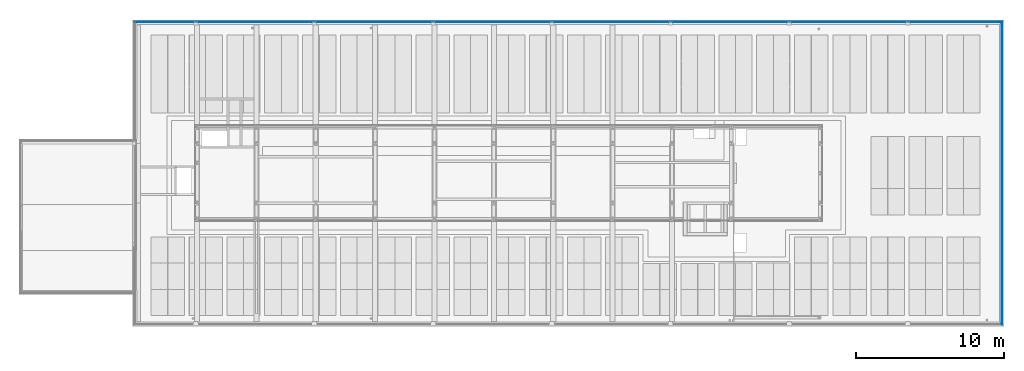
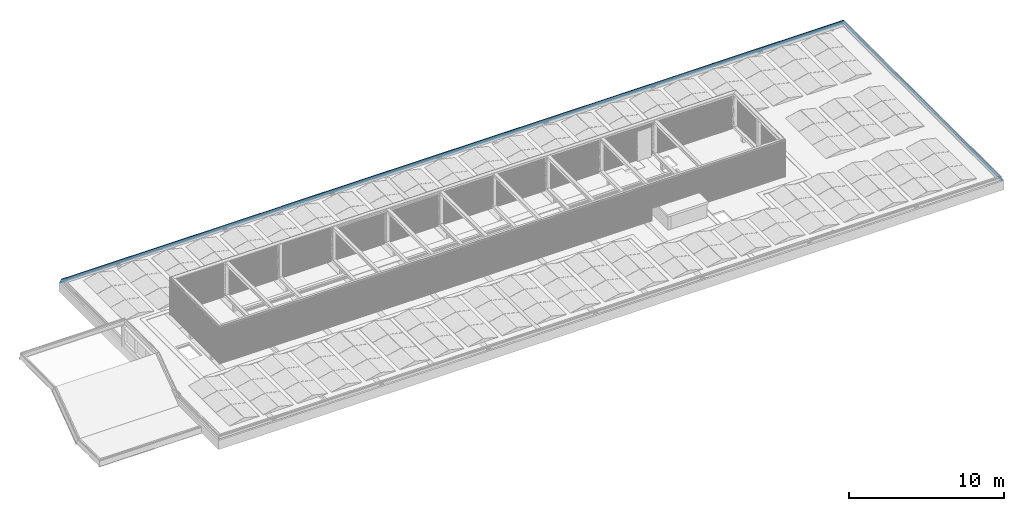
# One storey, part 43 of 63: 5 building element parts, 2 elements without a shape of their own.
"""IFC2X3 building model written with IfcOpenShell, lengths in millimetres."""

from ifc_helpers import new_model, entity, si_unit, converted_unit, derived_unit, money_unit, direction, frame, origin_with_axes, place, context, subcontext, project, spatial, faceted_brep, material, type_object, element, aggregate, save


model = new_model("IFC2X3")

# Units and contexts
model_context = context("Model", 3, precision=0.01, world=origin_with_axes(), true_north=direction((0.0, 1.0)))
body_context = subcontext(model_context, "Body", "Model", "MODEL_VIEW")
ifc_project = project(units=[si_unit("LENGTHUNIT", "METRE", prefix="MILLI"), si_unit("AREAUNIT", "SQUARE_METRE"), si_unit("VOLUMEUNIT", "CUBIC_METRE"), converted_unit("PLANEANGLEUNIT", "DEGREE", entity("IfcPlaneAngleMeasure", 0.0174532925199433), si_unit("PLANEANGLEUNIT", "RADIAN"), dimensions=[0, 0, 0, 0, 0, 0, 0]), money_unit("EUR"), converted_unit("TIMEUNIT", "Year", entity("IfcTimeMeasure", 31557600.0), si_unit("TIMEUNIT", "SECOND"), dimensions=[0, 0, 1, 0, 0, 0, 0]), si_unit("MASSUNIT", "GRAM", prefix="KILO"), si_unit("THERMODYNAMICTEMPERATUREUNIT", "DEGREE_CELSIUS"), si_unit("LUMINOUSINTENSITYUNIT", "LUMEN"), si_unit("ENERGYUNIT", "JOULE", prefix="MEGA"), derived_unit("THERMALCONDUCTANCEUNIT", [(si_unit("POWERUNIT", "WATT"), 1), (si_unit("LENGTHUNIT", "METRE"), -1), (si_unit("THERMODYNAMICTEMPERATUREUNIT", "KELVIN"), -1)]), derived_unit("SPECIFICHEATCAPACITYUNIT", [(si_unit("ENERGYUNIT", "JOULE"), 1), (si_unit("MASSUNIT", "GRAM", prefix="KILO"), -1), (si_unit("THERMODYNAMICTEMPERATUREUNIT", "KELVIN"), -1)]), derived_unit("MASSDENSITYUNIT", [(si_unit("MASSUNIT", "GRAM", prefix="KILO"), 1), (si_unit("VOLUMEUNIT", "CUBIC_METRE"), -1)])], contexts=[model_context])

# Site, building, storey
site_placement = place(None, origin_with_axes())
site = spatial("IfcSite", under=ifc_project, at=site_placement, Name="<site naam>", CompositionType="ELEMENT")
building_placement = place(site_placement, origin_with_axes())
building = spatial("IfcBuilding", under=site, at=building_placement, Name="<Naam gebouw>", CompositionType="ELEMENT")
storey_placement = place(building_placement, frame((0.0, 0.0, 12770.0), z_axis=(0.0, 0.0, 1.0), x_axis=(1.0, 0.0, 0.0)))
storey = spatial("IfcBuildingStorey", under=building, at=storey_placement, Name="04 4e verdieping", CompositionType="ELEMENT", Elevation=12770.0)

# Beam, building element parts
beam_type = type_object("IfcBeamType", Name="Aluminium daktrim 45 x 250", PredefinedType="BEAM")
beam_1_placement = place(storey_placement, frame((70369.99999757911, -324.9999975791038, -14.59999999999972), z_axis=(0.0, 0.0, 1.0), x_axis=(1.0, 0.0, 0.0)))
beam_1 = element("IfcBeam", 1, at=beam_1_placement, inside=storey, type_object=beam_type, Name="47_Balk_Aluminium", ObjectType="BEAM")
ifc_material = material(Name="aluminium")
building_element_part_1_placement = place(beam_1_placement, origin_with_axes())
building_element_part_1 = element("IfcBuildingElementPart", 2, at=building_element_part_1_placement, material=ifc_material, Name="aluminium", context=body_context, shape_type="Brep", body=[
    faceted_brep([(-143.0058874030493, 20506.99410775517, 241.8720983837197), (-111.197910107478, 20538.80208505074, 237.7678423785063), (-111.197910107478, 111.1979101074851, 237.7678423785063), (-143.0058874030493, 143.0058874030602, 241.8720983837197), (-143.0058874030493, 20506.99410775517, 253.0654661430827), (-141.8058874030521, 20508.19410775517, 253.0654661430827), (-141.8058874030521, 20508.19410775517, 243.1686919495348), (-110.0058874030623, 20539.99410775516, 239.0654661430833), (-110.0058874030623, 20539.99410775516, 44.56563661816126), (-115.2058874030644, 20534.79410775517, 44.56563661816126), (-115.2058874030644, 20534.79410775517, 61.56563661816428), (-114.005887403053, 20535.99410775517, 61.56563661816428), (-114.005887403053, 20535.99410775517, 45.7656366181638), (-111.197910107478, 20538.80208505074, 45.7656366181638), (-111.197910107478, 111.197910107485, 45.7656366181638), (-114.005887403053, 114.0058874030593, 45.7656366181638), (-114.005887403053, 114.0058874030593, 61.56563661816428), (-115.2058874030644, 115.2058874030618, 61.56563661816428), (-115.2058874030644, 115.2058874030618, 44.56563661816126), (-110.0058874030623, 110.0058874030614, 44.56563661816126), (-110.0058874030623, 110.0058874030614, 239.0654661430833), (-141.8058874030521, 141.8058874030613, 243.1686919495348), (-141.8058874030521, 141.8058874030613, 253.0654661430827), (-143.0058874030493, 143.0058874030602, 253.0654661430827)], [[[0, 1, 2, 3]], [[0, 4, 5, 6, 7, 8, 9, 10, 11, 12, 13, 1]], [[1, 13, 14, 2]], [[3, 2, 14, 15, 16, 17, 18, 19, 20, 21, 22, 23]], [[4, 0, 3, 23]], [[5, 4, 23, 22]], [[6, 5, 22, 21]], [[7, 6, 21, 20]], [[8, 7, 20, 19]], [[9, 8, 19, 18]], [[10, 9, 18, 17]], [[11, 10, 17, 16]], [[12, 11, 16, 15]], [[13, 12, 15, 14]]]),
])
building_element_part_2_placement = place(beam_1_placement, origin_with_axes())
building_element_part_2 = element("IfcBuildingElementPart", 3, at=building_element_part_2_placement, material=ifc_material, Name="aluminium", context=body_context, shape_type="Brep", body=[
    faceted_brep([(-112.0058939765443, 20537.99410118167, 49.56563034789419), (-112.0058939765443, 20537.99410118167, 69.56564503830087), (-112.0058939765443, 112.0058939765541, 69.56564503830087), (-112.0058939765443, 112.0058939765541, 49.56563034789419), (-113.2058874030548, 20536.79410775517, 49.56563034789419), (-113.2058874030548, 20536.79410775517, 68.55872432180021), (-145.0058874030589, 20504.99410775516, 74.16592230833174), (-145.0058874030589, 20504.99410775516, 89.56564503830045), (-143.8058874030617, 20506.19410775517, 89.56564503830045), (-143.8058874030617, 20506.19410775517, 75.17284186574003), (-143.8058874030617, 143.8058874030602, 75.17284186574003), (-143.8058874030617, 143.8058874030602, 89.56564503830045), (-145.0058874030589, 145.0058874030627, 89.56564503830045), (-145.0058874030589, 145.0058874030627, 74.16592230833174), (-113.2058874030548, 113.2058874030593, 68.55872432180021), (-113.2058874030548, 113.2058874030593, 49.56563034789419)], [[[0, 1, 2, 3]], [[0, 4, 5, 6, 7, 8, 9, 1]], [[1, 9, 10, 2]], [[3, 2, 10, 11, 12, 13, 14, 15]], [[4, 0, 3, 15]], [[5, 4, 15, 14]], [[6, 5, 14, 13]], [[7, 6, 13, 12]], [[8, 7, 12, 11]], [[9, 8, 11, 10]]]),
])
aggregate(beam_1, [building_element_part_1, building_element_part_2])

beam_2_placement = place(storey_placement, frame((70369.99999757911, 20324.99999757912, -14.59999999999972), z_axis=(0.0, 0.0, 1.0), x_axis=(0.0, 1.0, 0.0)))
beam_2 = element("IfcBeam", 4, at=beam_2_placement, inside=storey, type_object=beam_type, Name="47_Balk_Aluminium", ObjectType="BEAM")
building_element_part_3_placement = place(beam_2_placement, origin_with_axes())
building_element_part_3 = element("IfcBuildingElementPart", 5, at=building_element_part_3_placement, material=ifc_material, Name="aluminium", context=body_context, shape_type="Brep", body=[
    faceted_brep([(-121.499194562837, 58583.50080059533, 294.0656451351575), (-122.2068758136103, 58582.79311934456, 293.7721760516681), (-122.2068758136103, 122.2068758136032, 293.7721760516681), (-121.499194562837, 121.4991945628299, 294.0656451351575), (-110.9991946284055, 58594.00080052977, 294.0656451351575), (-110.2920878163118, 58594.70790734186, 293.7727519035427), (-109.9991945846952, 58595.00080057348, 293.0656450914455), (-109.9991945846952, 58595.00080057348, 250.0656451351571), (-110.2920878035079, 58594.70790735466, 249.3585383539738), (-110.9991945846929, 58594.00080057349, 249.0656451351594), (-111.4991731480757, 58593.5008220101, 249.1996073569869), (-117.6977781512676, 58587.3022170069, 252.7781690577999), (-117.9774779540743, 58587.0225172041, 253.1426342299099), (-117.9175736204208, 58587.08242153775, 253.598132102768), (-117.5531500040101, 58587.44684515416, 253.8778860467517), (-117.0976432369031, 58587.90235192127, 253.8180493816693), (-113.8976320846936, 58591.10236307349, 251.9718951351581), (-113.8976320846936, 58591.10236307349, 252.565645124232), (-113.7511854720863, 58591.24880968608, 252.9191985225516), (-113.3976320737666, 58591.60236308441, 253.0656451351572), (-113.1984133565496, 58591.80158180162, 253.0656451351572), (-112.8448599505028, 58592.15513520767, 252.9191985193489), (-112.6984133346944, 58592.30158182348, 252.5656451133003), (-112.6984133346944, 58592.30158182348, 251.278535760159), (-111.9489165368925, 58593.05107862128, 250.8452329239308), (-111.6116899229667, 58593.3883052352, 250.7856033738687), (-111.3150643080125, 58593.68493085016, 250.9567486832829), (-111.197910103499, 58593.80208505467, 251.278544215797), (-111.1984133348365, 58593.80158182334, 281.0656535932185), (-111.3448629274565, 58593.65513223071, 281.419201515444), (-111.6984133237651, 58593.30158183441, 281.5656451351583), (-112.1984133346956, 58592.80158182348, 281.5656451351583), (-112.5519667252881, 58592.44802843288, 281.4191985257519), (-112.6984133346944, 58592.30158182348, 281.0656451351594), (-112.6984133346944, 58592.30158182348, 279.5656451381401), (-112.8448599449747, 58592.15513521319, 279.212091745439), (-113.1984133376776, 58591.80158182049, 279.065645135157), (-114.9718508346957, 58590.02814432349, 279.065645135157), (-120.1773366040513, 58584.82265855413, 275.7461395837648), (-120.3116945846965, 58584.68830057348, 275.4250201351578), (-120.5695070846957, 58584.43048807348, 275.3156451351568), (-120.889819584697, 58584.11017557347, 275.448457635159), (-121.5401955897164, 58583.45979956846, 275.2060759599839), (-121.694507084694, 58583.30548807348, 274.897676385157), (-121.9640383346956, 58583.03595682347, 274.8078326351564), (-122.2726320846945, 58582.72736307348, 274.9640826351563), (-128.1981216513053, 58576.80187350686, 274.066030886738), (-154.6486035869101, 58550.35139157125, 274.0656451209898), (-154.8951277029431, 58550.10486745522, 274.1677553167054), (-154.9972414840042, 58550.00275367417, 274.4142779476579), (-154.8947842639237, 58550.10521089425, 274.6611444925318), (-154.6476320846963, 58550.35236307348, 274.7629107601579), (-149.9991945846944, 58555.00080057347, 275.2648638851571), (-149.698413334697, 58555.30158182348, 275.565645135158), (-147.2999758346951, 58557.70001932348, 275.565645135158), (-146.9991945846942, 58558.00080057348, 275.2648638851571), (-143.9991945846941, 58561.00080057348, 275.2648638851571), (-143.6984133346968, 58561.30158182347, 275.565645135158), (-141.2999758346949, 58563.70001932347, 275.565645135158), (-140.9991945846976, 58564.00080057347, 275.2648638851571), (-137.9991945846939, 58567.00080057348, 275.2648638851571), (-137.6984133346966, 58567.30158182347, 275.565645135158), (-135.2999758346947, 58569.70001932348, 275.565645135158), (-134.9991945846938, 58570.00080057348, 275.2648638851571), (-131.9991945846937, 58573.00080057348, 275.2648638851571), (-131.6984133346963, 58573.30158182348, 275.565645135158), (-129.2999758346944, 58575.70001932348, 275.565645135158), (-128.9991945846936, 58576.00080057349, 275.2648638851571), (-128.1984107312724, 58576.8015844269, 275.2648638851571), (-120.0158638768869, 58584.98413128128, 277.1388822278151), (-113.4645529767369, 58591.53544218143, 282.3873432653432), (-112.6841977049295, 58592.31579745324, 282.7641787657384), (-112.1970030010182, 58592.80299215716, 282.7648658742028), (-111.490808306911, 58593.50918685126, 283.0582564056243), (-111.1984133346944, 58593.80158182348, 283.7648638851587), (-111.1984133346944, 58593.80158182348, 292.3664263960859), (-111.3448599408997, 58593.65513521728, 292.719979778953), (-111.6984133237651, 58593.30158183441, 292.8664263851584), (-120.7999758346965, 58584.20001932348, 292.8664263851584), (-121.153529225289, 58583.84646593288, 292.7199797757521), (-121.2999758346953, 58583.70001932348, 292.3664263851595), (-121.2999758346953, 58583.70001932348, 290.6652544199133), (-121.4748532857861, 58583.52514187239, 290.2428198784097), (-121.8971453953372, 58583.10284976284, 290.0675987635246), (-122.3197220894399, 58582.68027306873, 290.2421324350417), (-122.4952867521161, 58582.50470840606, 290.6642818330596), (-122.4991919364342, 58582.50080322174, 293.0640177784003), (-122.4991919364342, 122.4991919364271, 293.0640177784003), (-122.4952867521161, 122.4952867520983, 290.6642818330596), (-122.3197220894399, 122.3197220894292, 290.2421324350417), (-121.8971453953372, 121.897145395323, 290.0675987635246), (-121.4748532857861, 121.4748532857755, 290.2428198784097), (-121.2999758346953, 121.2999758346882, 290.6652544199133), (-121.2999758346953, 121.2999758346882, 292.3664263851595), (-121.153529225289, 121.1535292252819, 292.7199797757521), (-120.7999758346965, 120.7999758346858, 292.8664263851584), (-111.6984133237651, 111.6984133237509, 292.8664263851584), (-111.3448599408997, 111.3448599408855, 292.719979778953), (-111.1984133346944, 111.1984133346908, 292.3664263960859), (-111.1984133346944, 111.1984133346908, 283.7648638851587), (-111.490808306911, 111.4908083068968, 283.0582564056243), (-112.1970030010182, 112.1970030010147, 282.7648658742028), (-112.6841977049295, 112.6841977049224, 282.7641787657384), (-113.4645529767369, 113.4645529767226, 282.3873432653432), (-120.0158638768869, 120.0158638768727, 277.1388822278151), (-128.1984107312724, 128.1984107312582, 275.2648638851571), (-128.9991945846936, 128.9991945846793, 275.2648638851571), (-129.2999758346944, 129.2999758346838, 275.565645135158), (-131.6984133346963, 131.6984133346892, 275.565645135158), (-131.9991945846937, 131.9991945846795, 275.2648638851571), (-134.9991945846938, 134.9991945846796, 275.2648638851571), (-135.2999758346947, 135.299975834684, 275.565645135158), (-137.6984133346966, 137.6984133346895, 275.565645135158), (-137.9991945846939, 137.9991945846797, 275.2648638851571), (-140.9991945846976, 140.999194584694, 275.2648638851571), (-141.2999758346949, 141.2999758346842, 275.565645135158), (-143.6984133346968, 143.6984133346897, 275.565645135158), (-143.9991945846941, 143.9991945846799, 275.2648638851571), (-146.9991945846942, 146.99919458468, 275.2648638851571), (-147.2999758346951, 147.2999758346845, 275.565645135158), (-149.698413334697, 149.6984133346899, 275.565645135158), (-149.9991945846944, 149.9991945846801, 275.2648638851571), (-154.6476320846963, 154.6476320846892, 274.7629107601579), (-154.8947842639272, 154.8947842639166, 274.6611444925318), (-154.9972414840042, 154.9972414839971, 274.4142779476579), (-154.8951277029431, 154.8951277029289, 274.1677553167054), (-154.6486035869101, 154.6486035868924, 274.0656451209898), (-128.1981216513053, 128.1981216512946, 274.066030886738), (-122.2726320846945, 122.2726320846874, 274.9640826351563), (-121.9640383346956, 121.9640383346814, 274.8078326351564), (-121.694507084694, 121.6945070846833, 274.897676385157), (-121.5401955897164, 121.5401955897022, 275.2060759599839), (-120.889819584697, 120.8898195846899, 275.448457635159), (-120.5695070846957, 120.5695070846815, 275.3156451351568), (-120.3116945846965, 120.3116945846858, 275.4250201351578), (-120.1773366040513, 120.1773366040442, 275.7461395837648), (-114.9718508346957, 114.9718508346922, 279.065645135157), (-113.1984133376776, 113.1984133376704, 279.065645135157), (-112.8448599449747, 112.8448599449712, 279.212091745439), (-112.6984133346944, 112.6984133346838, 279.5656451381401), (-112.6984133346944, 112.6984133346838, 281.0656451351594), (-112.5519667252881, 112.5519667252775, 281.4191985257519), (-112.1984133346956, 112.1984133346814, 281.5656451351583), (-111.6984133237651, 111.6984133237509, 281.5656451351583), (-111.3448629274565, 111.3448629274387, 281.419201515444), (-111.1984133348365, 111.1984133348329, 281.0656535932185), (-111.197910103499, 111.1979101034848, 251.278544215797), (-111.3150643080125, 111.3150643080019, 250.9567486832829), (-111.6116899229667, 111.6116899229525, 250.7856033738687), (-111.9489165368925, 111.948916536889, 250.8452329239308), (-112.6984133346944, 112.6984133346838, 251.278535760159), (-112.6984133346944, 112.6984133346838, 252.5656451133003), (-112.8448599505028, 112.8448599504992, 252.9191985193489), (-113.1984133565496, 113.1984133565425, 253.0656451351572), (-113.3976320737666, 113.397632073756, 253.0656451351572), (-113.7511854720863, 113.7511854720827, 252.9191985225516), (-113.8976320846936, 113.8976320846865, 252.565645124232), (-113.8976320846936, 113.8976320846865, 251.9718951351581), (-117.0976432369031, 117.0976432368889, 253.8180493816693), (-117.5531500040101, 117.5531500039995, 253.8778860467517), (-117.9175736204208, 117.917573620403, 253.598132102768), (-117.9774779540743, 117.9774779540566, 253.1426342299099), (-117.6977781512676, 117.6977781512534, 252.7781690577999), (-111.4991731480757, 111.4991731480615, 249.1996073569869), (-110.9991945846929, 110.9991945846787, 249.0656451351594), (-110.2920878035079, 110.2920878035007, 249.3585383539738), (-109.9991945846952, 109.9991945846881, 250.0656451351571), (-109.9991945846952, 109.9991945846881, 293.0656450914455), (-110.2920878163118, 110.2920878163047, 293.7727519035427), (-110.9991946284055, 110.9991946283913, 294.0656451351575)], [[[0, 1, 2, 3]], [[0, 4, 5, 6, 7, 8, 9, 10, 11, 12, 13, 14, 15, 16, 17, 18, 19, 20, 21, 22, 23, 24, 25, 26, 27, 28, 29, 30, 31, 32, 33, 34, 35, 36, 37, 38, 39, 40, 41, 42, 43, 44, 45, 46, 47, 48, 49, 50, 51, 52, 53, 54, 55, 56, 57, 58, 59, 60, 61, 62, 63, 64, 65, 66, 67, 68, 69, 70, 71, 72, 73, 74, 75, 76, 77, 78, 79, 80, 81, 82, 83, 84, 85, 86, 1]], [[1, 86, 87, 2]], [[3, 2, 87, 88, 89, 90, 91, 92, 93, 94, 95, 96, 97, 98, 99, 100, 101, 102, 103, 104, 105, 106, 107, 108, 109, 110, 111, 112, 113, 114, 115, 116, 117, 118, 119, 120, 121, 122, 123, 124, 125, 126, 127, 128, 129, 130, 131, 132, 133, 134, 135, 136, 137, 138, 139, 140, 141, 142, 143, 144, 145, 146, 147, 148, 149, 150, 151, 152, 153, 154, 155, 156, 157, 158, 159, 160, 161, 162, 163, 164, 165, 166, 167, 168, 169]], [[4, 0, 3, 169]], [[5, 4, 169, 168]], [[6, 5, 168, 167]], [[7, 6, 167, 166]], [[8, 7, 166, 165]], [[9, 8, 165, 164]], [[10, 9, 164, 163]], [[11, 10, 163, 162]], [[12, 11, 162, 161]], [[13, 12, 161, 160]], [[14, 13, 160, 159]], [[15, 14, 159, 158]], [[16, 15, 158, 157]], [[17, 16, 157, 156]], [[18, 17, 156, 155]], [[19, 18, 155, 154]], [[20, 19, 154, 153]], [[21, 20, 153, 152]], [[22, 21, 152, 151]], [[23, 22, 151, 150]], [[24, 23, 150, 149]], [[25, 24, 149, 148]], [[26, 25, 148, 147]], [[27, 26, 147, 146]], [[28, 27, 146, 145]], [[29, 28, 145, 144]], [[30, 29, 144, 143]], [[31, 30, 143, 142]], [[32, 31, 142, 141]], [[33, 32, 141, 140]], [[34, 33, 140, 139]], [[35, 34, 139, 138]], [[36, 35, 138, 137]], [[37, 36, 137, 136]], [[38, 37, 136, 135]], [[39, 38, 135, 134]], [[40, 39, 134, 133]], [[41, 40, 133, 132]], [[42, 41, 132, 131]], [[43, 42, 131, 130]], [[44, 43, 130, 129]], [[45, 44, 129, 128]], [[46, 45, 128, 127]], [[47, 46, 127, 126]], [[48, 47, 126, 125]], [[49, 48, 125, 124]], [[50, 49, 124, 123]], [[51, 50, 123, 122]], [[52, 51, 122, 121]], [[53, 52, 121, 120]], [[54, 53, 120, 119]], [[55, 54, 119, 118]], [[56, 55, 118, 117]], [[57, 56, 117, 116]], [[58, 57, 116, 115]], [[59, 58, 115, 114]], [[60, 59, 114, 113]], [[61, 60, 113, 112]], [[62, 61, 112, 111]], [[63, 62, 111, 110]], [[64, 63, 110, 109]], [[65, 64, 109, 108]], [[66, 65, 108, 107]], [[67, 66, 107, 106]], [[68, 67, 106, 105]], [[69, 68, 105, 104]], [[70, 69, 104, 103]], [[71, 70, 103, 102]], [[72, 71, 102, 101]], [[73, 72, 101, 100]], [[74, 73, 100, 99]], [[75, 74, 99, 98]], [[76, 75, 98, 97]], [[77, 76, 97, 96]], [[78, 77, 96, 95]], [[79, 78, 95, 94]], [[80, 79, 94, 93]], [[81, 80, 93, 92]], [[82, 81, 92, 91]], [[83, 82, 91, 90]], [[84, 83, 90, 89]], [[85, 84, 89, 88]], [[86, 85, 88, 87]]]),
])
building_element_part_4_placement = place(beam_2_placement, origin_with_axes())
building_element_part_4 = element("IfcBuildingElementPart", 6, at=building_element_part_4_placement, material=ifc_material, Name="aluminium", context=body_context, shape_type="Brep", body=[
    faceted_brep([(-112.0058939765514, 58592.99410118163, 49.56563034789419), (-112.0058939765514, 58592.99410118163, 69.56564503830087), (-112.0058939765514, 112.0058939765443, 69.56564503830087), (-112.0058939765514, 112.0058939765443, 49.56563034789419), (-113.2058874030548, 58591.79410775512, 49.56563034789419), (-113.2058874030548, 58591.79410775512, 68.55872432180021), (-145.0058874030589, 58559.99410775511, 74.16592230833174), (-145.0058874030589, 58559.99410775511, 89.56564503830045), (-143.8058874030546, 58561.19410775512, 89.56564503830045), (-143.8058874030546, 58561.19410775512, 75.17284186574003), (-143.8058874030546, 143.8058874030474, 75.17284186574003), (-143.8058874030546, 143.8058874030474, 89.56564503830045), (-145.0058874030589, 145.0058874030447, 89.56564503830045), (-145.0058874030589, 145.0058874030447, 74.16592230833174), (-113.2058874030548, 113.2058874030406, 68.55872432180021), (-113.2058874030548, 113.2058874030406, 49.56563034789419)], [[[0, 1, 2, 3]], [[0, 4, 5, 6, 7, 8, 9, 1]], [[1, 9, 10, 2]], [[3, 2, 10, 11, 12, 13, 14, 15]], [[4, 0, 3, 15]], [[5, 4, 15, 14]], [[6, 5, 14, 13]], [[7, 6, 13, 12]], [[8, 7, 12, 11]], [[9, 8, 11, 10]]]),
])
building_element_part_5_placement = place(beam_2_placement, origin_with_axes())
building_element_part_5 = element("IfcBuildingElementPart", 7, at=building_element_part_5_placement, material=ifc_material, Name="aluminium", context=body_context, shape_type="Brep", body=[
    faceted_brep([(-143.0058874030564, 58561.99410775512, 241.8720983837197), (-111.1979101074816, 58593.80208505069, 237.7678423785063), (-111.1979101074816, 111.197910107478, 237.7678423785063), (-143.0058874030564, 143.0058874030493, 241.8720983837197), (-143.0058874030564, 58561.99410775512, 253.0654661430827), (-141.8058874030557, 58563.19410775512, 253.0654661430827), (-141.8058874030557, 58563.19410775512, 243.1686919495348), (-110.0058874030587, 58594.99410775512, 239.0654661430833), (-110.0058874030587, 58594.99410775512, 44.56563661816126), (-115.2058874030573, 58589.79410775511, 44.56563661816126), (-115.2058874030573, 58589.79410775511, 61.56563661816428), (-114.0058874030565, 58590.99410775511, 61.56563661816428), (-114.0058874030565, 58590.99410775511, 45.7656366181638), (-111.1979101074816, 58593.80208505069, 45.7656366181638), (-111.1979101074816, 111.197910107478, 45.7656366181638), (-114.0058874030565, 114.0058874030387, 45.7656366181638), (-114.0058874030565, 114.0058874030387, 61.56563661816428), (-115.2058874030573, 115.2058874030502, 61.56563661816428), (-115.2058874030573, 115.2058874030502, 44.56563661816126), (-110.0058874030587, 110.0058874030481, 44.56563661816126), (-110.0058874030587, 110.0058874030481, 239.0654661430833), (-141.8058874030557, 141.8058874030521, 243.1686919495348), (-141.8058874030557, 141.8058874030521, 253.0654661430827), (-143.0058874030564, 143.0058874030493, 253.0654661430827)], [[[0, 1, 2, 3]], [[0, 4, 5, 6, 7, 8, 9, 10, 11, 12, 13, 1]], [[1, 13, 14, 2]], [[3, 2, 14, 15, 16, 17, 18, 19, 20, 21, 22, 23]], [[4, 0, 3, 23]], [[5, 4, 23, 22]], [[6, 5, 22, 21]], [[7, 6, 21, 20]], [[8, 7, 20, 19]], [[9, 8, 19, 18]], [[10, 9, 18, 17]], [[11, 10, 17, 16]], [[12, 11, 16, 15]], [[13, 12, 15, 14]]]),
])
aggregate(beam_2, [building_element_part_3, building_element_part_4, building_element_part_5])

save(model, "model.ifc")
